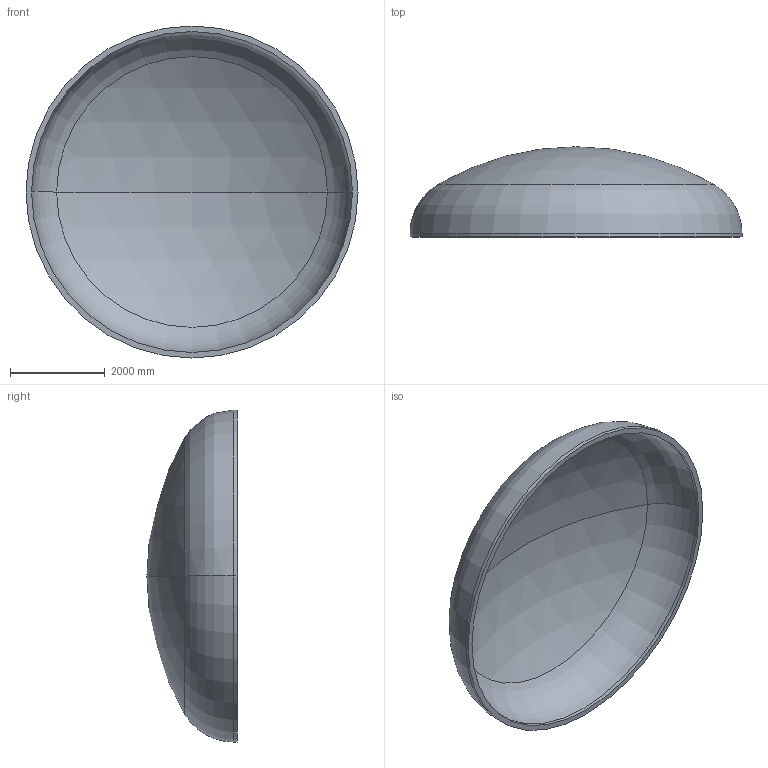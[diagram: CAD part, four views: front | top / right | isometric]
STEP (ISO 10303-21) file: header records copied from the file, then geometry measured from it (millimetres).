
FILE_DESCRIPTION (( 'STEP AP203' ), '1' );
FILE_NAME ('DIN 28013 Korbbogenform_-_Boden DIN 28013 - 7000 x 75 - I - s=116.step', '2016-07-04T10:50:43', ( '' ), ( '' ), 'SwSTEP 2.0', 'SolidWorks 2013', '' );
FILE_SCHEMA (( 'CONFIG_CONTROL_DESIGN' ));
Length unit declared in the file: millimetre
Products named in the file (1): DIN 28013 Korbbogenform_-_Boden DIN 28013 - 7000 x 75 - I - s=116
Bounding box: 7000 x 1902.3 x 7000 mm (x, y, z)
Volume: 6239507197.2 mm3; surface area: 110114551.7 mm2
Topology: 1 solids, 1 shells, 13 faces, 24 edges, 14 vertices
Faces by surface type: torus 4, cylinder 4, sphere 4, plane 1
Entity records: 407 total; most frequent: DIRECTION 72, CARTESIAN_POINT 52, ORIENTED_EDGE 48, AXIS2_PLACEMENT_3D 34, EDGE_CURVE 24, CIRCLE 20, VERTEX_POINT 14, EDGE_LOOP 14
